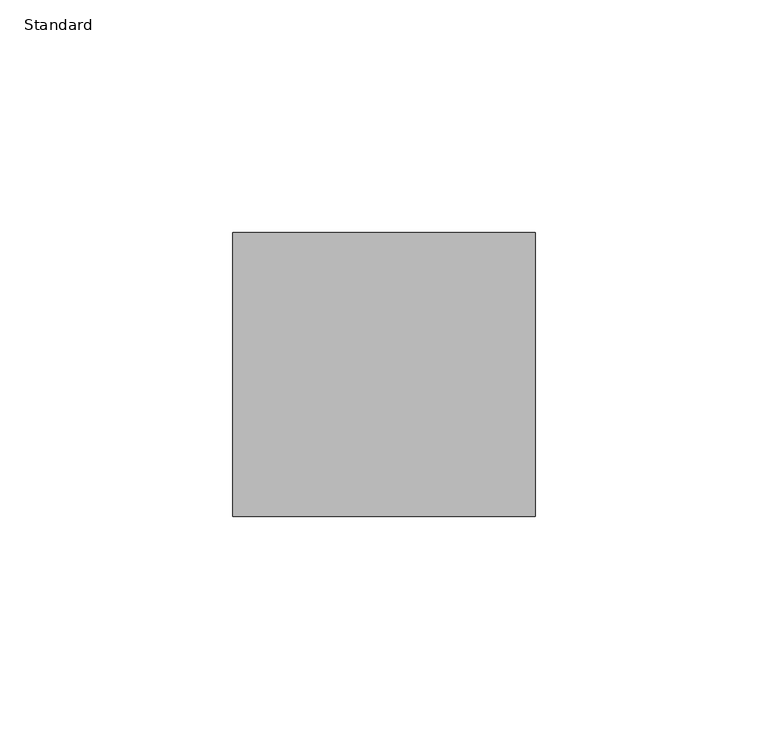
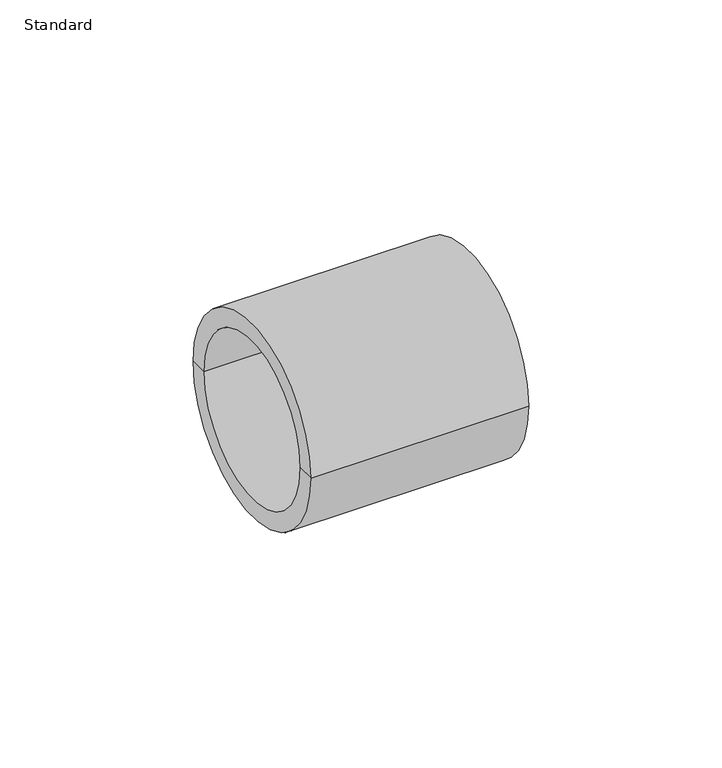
"""IFC4 building model written with IfcOpenShell, lengths in millimetres: pipe fitting geometry, Durapipe_PipeFitting_PVC_Socket : Standard."""

from ifc_helpers import new_model, si_unit, frame, origin, place, context, project, spatial, polyline, circle_curve, source, transform, mapped, element, save
from ifc_brep_helpers import plane_surface, cylinder_surface, revolved_surface, advanced_brep


def standard_8bf5e5c2(model_context):
    return source(origin(), model_context, "Body", "AdvancedBrep", [
        advanced_brep(
        [(-32.5, -30.5, 0.0), (-32.5, 30.5, 0.0), (32.5, 30.5, 0.0), (32.5, -30.5, 0.0), (-32.5, -25.0, 0.0), (-32.5, 25.0, 0.0), (1.5, -22.0, 0.0), (1.5, 22.0, 0.0), (-1.5, 22.0, 0.0), (-1.5, -22.0, 0.0), (32.5, 25.0, 0.0), (32.5, -25.0, 0.0), (-1.5, -25.0, 0.0), (-1.5, 25.0, 0.0), (1.5, -25.0, 0.0), (1.5, 25.0, 0.0)],
        [
            (0, 1, circle_curve(frame((-32.5, 0.0, 0.0), z_axis=(1.0, 0.0, 0.0), x_axis=(0.0, 1.0, 0.0)), 30.5)),
            (1, 2),
            (2, 3, circle_curve(frame((32.5, 0.0, 0.0), z_axis=(-1.0, 0.0, 0.0), x_axis=(0.0, 1.0, 0.0)), 30.5)),
            (3, 0),
            (1, 0, circle_curve(frame((-32.5, 0.0, 0.0), z_axis=(1.0, 0.0, 0.0), x_axis=(0.0, 1.0, 0.0)), 30.5)),
            (3, 2, circle_curve(frame((32.5, 0.0, 0.0), z_axis=(-1.0, 0.0, 0.0), x_axis=(0.0, 1.0, 0.0)), 30.5)),
            (4, 5, circle_curve(frame((-32.5, 0.0, 0.0), z_axis=(1.0, 0.0, 0.0), x_axis=(0.0, 1.0, 0.0)), 25.0)),
            (5, 1),
            (0, 4),
            (5, 4, circle_curve(frame((-32.5, 0.0, 0.0), z_axis=(1.0, 0.0, 0.0), x_axis=(0.0, 1.0, 0.0)), 25.0)),
            (6, 7, circle_curve(frame((1.5, 0.0, 0.0), z_axis=(1.0, 0.0, 0.0), x_axis=(0.0, 1.0, 0.0)), 22.0)),
            (7, 8),
            (8, 9, circle_curve(frame((-1.5, 0.0, 0.0), z_axis=(-1.0, 0.0, 0.0), x_axis=(0.0, 1.0, 0.0)), 22.0)),
            (9, 6),
            (7, 6, circle_curve(frame((1.5, 0.0, 0.0), z_axis=(1.0, 0.0, 0.0), x_axis=(0.0, 1.0, 0.0)), 22.0)),
            (9, 8, circle_curve(frame((-1.5, 0.0, 0.0), z_axis=(-1.0, 0.0, 0.0), x_axis=(0.0, 1.0, 0.0)), 22.0)),
            (2, 10),
            (10, 11, circle_curve(frame((32.5, 0.0, 0.0), z_axis=(-1.0, 0.0, 0.0), x_axis=(0.0, 1.0, 0.0)), 25.0)),
            (11, 3),
            (11, 10, circle_curve(frame((32.5, 0.0, 0.0), z_axis=(-1.0, 0.0, 0.0), x_axis=(0.0, 1.0, 0.0)), 25.0)),
            (12, 13, circle_curve(frame((-1.5, 0.0, 0.0), z_axis=(1.0, 0.0, 0.0), x_axis=(0.0, 1.0, 0.0)), 25.0)),
            (13, 5),
            (4, 12),
            (13, 12, circle_curve(frame((-1.5, 0.0, 0.0), z_axis=(1.0, 0.0, 0.0), x_axis=(0.0, 1.0, 0.0)), 25.0)),
            (8, 13),
            (12, 9),
            (14, 15, circle_curve(frame((1.5, 0.0, 0.0), z_axis=(1.0, 0.0, 0.0), x_axis=(0.0, 1.0, 0.0)), 25.0)),
            (15, 7),
            (6, 14),
            (15, 14, circle_curve(frame((1.5, 0.0, 0.0), z_axis=(1.0, 0.0, 0.0), x_axis=(0.0, 1.0, 0.0)), 25.0)),
            (10, 15),
            (14, 11),
        ],
        [
            cylinder_surface(frame((-32.5, 0.0, 0.0), z_axis=(-1.0, 0.0, 0.0), x_axis=(0.0, 1.0, 0.0)), 30.5),
            plane_surface(frame((-32.5, 0.0, 0.0), z_axis=(-1.0, 0.0, 0.0), x_axis=(0.0, 1.0, 0.0))),
            revolved_surface(polyline([(-1.5, 22.0, 0.0), (1.5, 22.0, 0.0)]), (-32.5, 0.0, 0.0), (-1.0, 0.0, 0.0)),
            plane_surface(frame((32.5, 0.0, 0.0), z_axis=(1.0, 0.0, 0.0), x_axis=(0.0, 1.0, 0.0))),
            revolved_surface(polyline([(-32.5, 25.0, 0.0), (-1.5, 25.0, 0.0)]), (-32.5, 0.0, 0.0), (-1.0, 0.0, 0.0)),
            plane_surface(frame((-1.5, 0.0, 0.0), z_axis=(-1.0, 0.0, 0.0), x_axis=(0.0, 1.0, 0.0))),
            plane_surface(frame((1.5, 0.0, 0.0), z_axis=(1.0, 0.0, 0.0), x_axis=(0.0, 1.0, 0.0))),
            revolved_surface(polyline([(1.5, 25.0, 0.0), (32.5, 25.0, 0.0)]), (-32.5, 0.0, 0.0), (-1.0, 0.0, 0.0)),
        ],
        [
            (0, [[1, 2, 3, 4]]),
            (0, [[5, -4, 6, -2]]),
            (1, [[7, 8, -1, 9]]),
            (1, [[10, -9, -5, -8]]),
            (2, [[11, 12, 13, 14]]),
            (2, [[15, -14, 16, -12]]),
            (3, [[-3, 17, 18, 19]]),
            (3, [[-6, -19, 20, -17]]),
            (4, [[21, 22, -7, 23]]),
            (4, [[24, -23, -10, -22]]),
            (5, [[-13, 25, -21, 26]]),
            (5, [[-16, -26, -24, -25]]),
            (6, [[27, 28, -11, 29]]),
            (6, [[30, -29, -15, -28]]),
            (7, [[-18, 31, -27, 32]]),
            (7, [[-20, -32, -30, -31]]),
        ],
    ),
    ])


if __name__ == "__main__":
    model = new_model("IFC4")
    model_context = context("Model", 3, world=origin())
    ifc_project = project(units=[si_unit("LENGTHUNIT", "METRE", prefix="MILLI")], contexts=[model_context])
    site = spatial("IfcSite", under=ifc_project)
    building = spatial("IfcBuilding", under=site)
    placement = place(None, origin())
    standard_shape = standard_8bf5e5c2(model_context)
    element("IfcPipeFitting", 1, ObjectType="Durapipe_PipeFitting_PVC_Socket : Standard", at=placement, inside=building, context=model_context, shape_type="MappedRepresentation", body=[
        mapped(standard_shape, transform((0.0, 0.0, 0.0), x_axis=(1.0, 0.0, 0.0), y_axis=(0.0, 1.0, 0.0), z_axis=(0.0, 0.0, 1.0))),
    ])
    save(model, "model.ifc")
